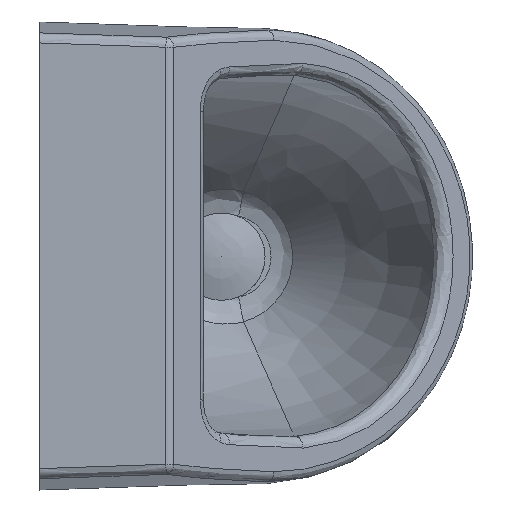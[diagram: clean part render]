
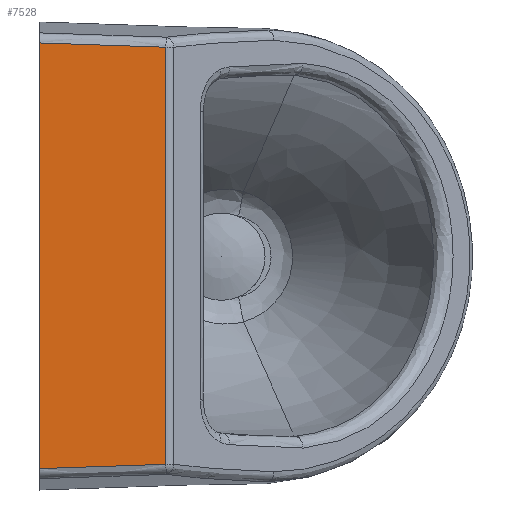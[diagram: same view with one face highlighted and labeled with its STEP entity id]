
A CAD part, top view. The second image highlights one B-rep face of the part: STEP entity #7528.
In plain terms, the highlighted planar face has unit normal (0, 0, 1) as drawn and (0, 0, -1) by its records, which use the part's own axes.
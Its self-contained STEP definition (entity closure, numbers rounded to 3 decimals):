
#2536=CARTESIAN_POINT('',(271.37,14.863,-265.));
#2537=VERTEX_POINT('',#2536);
#2560=CARTESIAN_POINT('',(-21.407,14.863,-265.));
#2561=VERTEX_POINT('',#2560);
#2562=CARTESIAN_POINT('',(-21.407,14.863,-265.0));
#2563=DIRECTION('',(1.0,0.0,0.0));
#2564=VECTOR('',#2563,292.777);
#2565=LINE('',#2562,#2564);
#2566=EDGE_CURVE('',#2561,#2537,#2565,.T.);
#7477=CARTESIAN_POINT('',(-18.465,-71.934,-265.));
#7478=VERTEX_POINT('',#7477);
#7494=CARTESIAN_POINT('',(-21.407,14.863,-265.));
#7495=CARTESIAN_POINT('',(-20.426,-14.069,-265.));
#7496=CARTESIAN_POINT('',(-19.446,-43.001,-265.));
#7497=CARTESIAN_POINT('',(-18.465,-71.934,-265.));
#7498=B_SPLINE_CURVE_WITH_KNOTS('',3,(#7494,#7495,#7496,#7497),.UNSPECIFIED.,.F.,.U.,(4,4),(0.024,8.708),.UNSPECIFIED.);
#7499=EDGE_CURVE('',#2561,#7478,#7498,.T.);
#7504=CARTESIAN_POINT('',(124.981,-108.398,-265.));
#7505=DIRECTION('',(0.0,0.0,1.0));
#7506=DIRECTION('',(1.0,0.0,0.0));
#7507=AXIS2_PLACEMENT_3D('',#7504,#7505,#7506);
#7508=PLANE('',#7507);
#7509=CARTESIAN_POINT('',(268.427,-71.934,-265.));
#7510=VERTEX_POINT('',#7509);
#7511=CARTESIAN_POINT('',(-18.465,-71.934,-265.));
#7512=DIRECTION('',(1.0,0.0,0.0));
#7513=VECTOR('',#7512,286.892);
#7514=LINE('',#7511,#7513);
#7515=EDGE_CURVE('',#7478,#7510,#7514,.T.);
#7516=ORIENTED_EDGE('',*,*,#7515,.F.);
#7517=ORIENTED_EDGE('',*,*,#7499,.F.);
#7518=ORIENTED_EDGE('',*,*,#2566,.T.);
#7519=CARTESIAN_POINT('',(268.427,-71.934,-265.0));
#7520=CARTESIAN_POINT('',(269.408,-43.001,-265.0));
#7521=CARTESIAN_POINT('',(270.389,-14.069,-265.));
#7522=CARTESIAN_POINT('',(271.37,14.863,-265.));
#7523=B_SPLINE_CURVE_WITH_KNOTS('',3,(#7519,#7520,#7521,#7522),.UNSPECIFIED.,.F.,.U.,(4,4),(6.872,15.557),.UNSPECIFIED.);
#7524=EDGE_CURVE('',#7510,#2537,#7523,.T.);
#7525=ORIENTED_EDGE('',*,*,#7524,.F.);
#7526=EDGE_LOOP('',(#7516,#7517,#7518,#7525));
#7527=FACE_OUTER_BOUND('',#7526,.T.);
#7528=ADVANCED_FACE('',(#7527),#7508,.F.);
